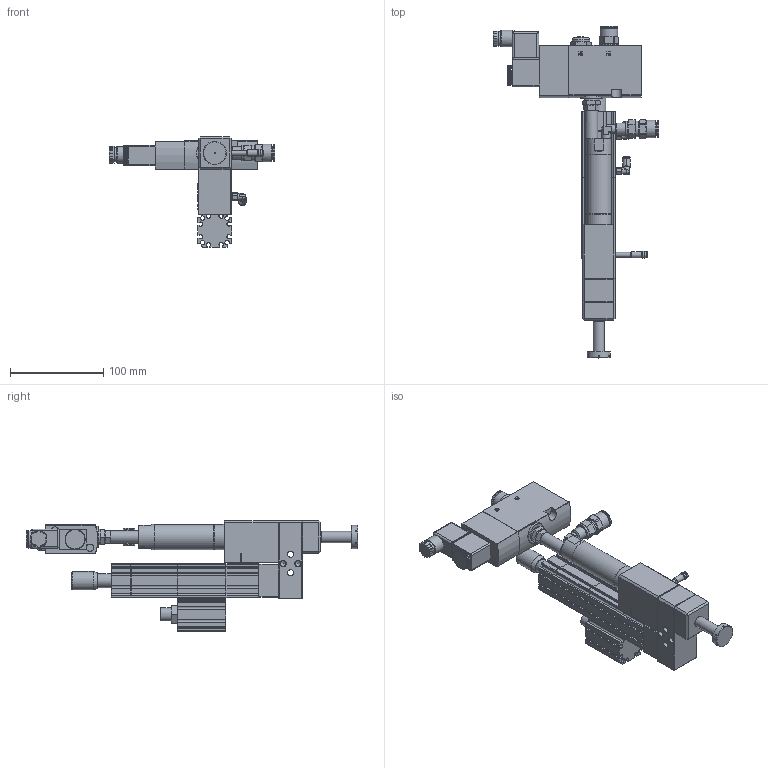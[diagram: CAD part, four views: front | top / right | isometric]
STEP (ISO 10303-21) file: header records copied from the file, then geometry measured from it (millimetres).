
FILE_DESCRIPTION (( 'STEP AP214' ), '1' );
FILE_NAME ('DAVR 300_400.STEP', '2023-07-17T06:18:35', ( '' ), ( '' ), 'SwSTEP 2.0', 'SolidWorks 2022', '' );
FILE_SCHEMA (( 'AUTOMOTIVE_DESIGN' ));
Length unit declared in the file: millimetre
Products named in the file (1): DAVR 300_400
Bounding box: 177.55 x 356.88 x 118.83 mm (x, y, z)
Volume: 758247.3 mm3; surface area: 145792.6 mm2
Topology: 1 solids, 1 shells, 2095 faces, 4812 edges, 2772 vertices
Faces by surface type: plane 1401, cylinder 351, cone 326, torus 7, bspline 6, sphere 4
Full cylindrical faces by diameter (mm): 1.3 x6, 2.5 x1, 4.3 x1, 5 x3, 5.5 x1, 6 x7, 6.5 x2, 6.55 x2, 8 x1, 9.5 x2, 10 x1, 12 x1, 12.15 x2, 13 x1, 13.5 x2, 13.6 x1, 14 x1, 14.95 x1, 15.2 x1, 16 x1, 16.7 x2, 18 x1, 18.5 x2, 18.8 x2, 19 x1, 19.9 x1, 20 x1, 21 x1, 22 x1, 22.8 x1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
Entity records: 57917 total; most frequent: CARTESIAN_POINT 12416, DIRECTION 9280, ORIENTED_EDGE 9264, EDGE_CURVE 4632, LINE 3126, VECTOR 3126, AXIS2_PLACEMENT_3D 3077, VERTEX_POINT 2709
